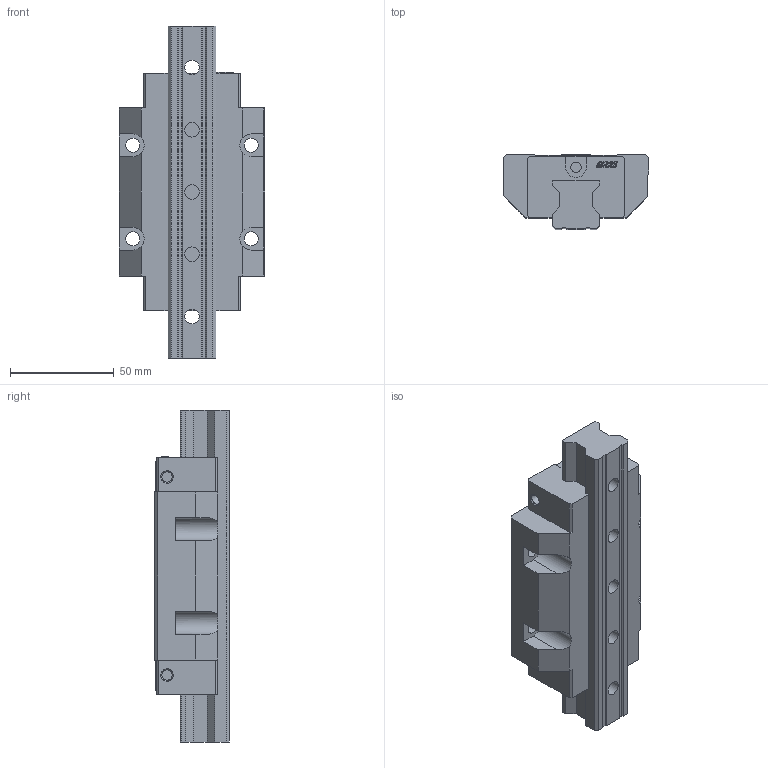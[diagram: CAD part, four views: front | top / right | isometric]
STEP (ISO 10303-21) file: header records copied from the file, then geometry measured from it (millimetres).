
FILE_DESCRIPTION(/* description */ (''),/* implementation_level */ '2;1');
FILE_NAME(/* name */ 'SRW25HC.stp',/* time_stamp */ '2022-01-22T15:21:47+08:00',/* author */ (''),/* organization */ (''),/* preprocessor_version */ 'ST-DEVELOPER v15',/* originating_system */ 'SIEMENS PLM Software NX 8.5',/* authorisation */ '');
FILE_SCHEMA (('CONFIG_CONTROL_DESIGN'));
Length unit declared in the file: millimetre
Products named in the file (1): _model1
Bounding box: 70 x 36 x 160 mm (x, y, z)
Volume: 225110.4 mm3; surface area: 50973.8 mm2
Topology: 2 solids, 2 shells, 268 faces, 777 edges, 531 vertices
Faces by surface type: plane 146, extrusion 77, cylinder 30, cone 15
Full cylindrical faces by diameter (mm): 5 x6, 6.75 x6, 7 x5, 11 x7
Entity records: 9337 total; most frequent: CARTESIAN_POINT 2488, ORIENTED_EDGE 1460, DIRECTION 1167, EDGE_CURVE 730, VERTEX_POINT 523, VECTOR 517, LINE 440, EDGE_LOOP 347
